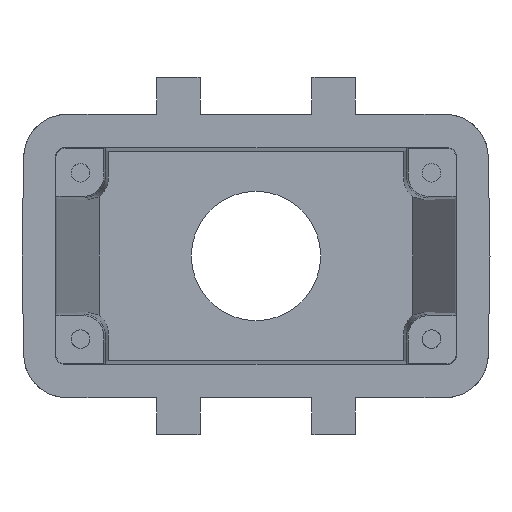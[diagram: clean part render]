
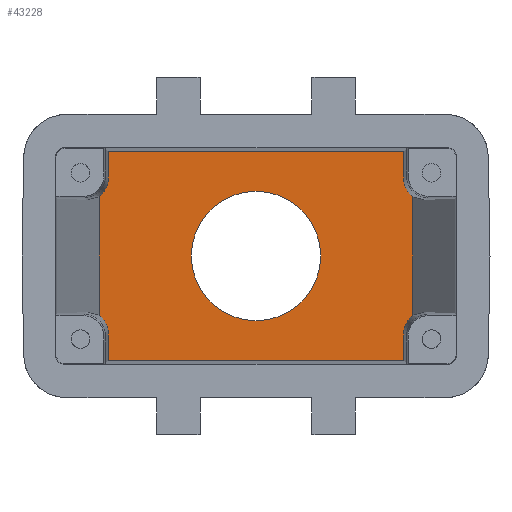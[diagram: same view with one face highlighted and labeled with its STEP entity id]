
A CAD part, front view. The second image highlights one B-rep face of the part: STEP entity #43228.
In plain terms, the highlighted planar face has unit normal (0, -1, 0).
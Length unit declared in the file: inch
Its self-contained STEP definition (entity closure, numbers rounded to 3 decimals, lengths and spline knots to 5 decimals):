
#225 = DIRECTION ( 'NONE',  ( 0., 0., -1. ) ) ;
#391 = CARTESIAN_POINT ( 'NONE',  ( -0.08852, 3.54726, -0.44691 ) ) ;
#595 = CARTESIAN_POINT ( 'NONE',  ( -1.9987, 3.54726, -0.40672 ) ) ;
#745 = VERTEX_POINT ( 'NONE', #14669 ) ;
#1044 = ORIENTED_EDGE ( 'NONE', *, *, #43412, .T. ) ;
#1197 = LINE ( 'NONE', #25603, #9439 ) ;
#1565 = ORIENTED_EDGE ( 'NONE', *, *, #30008, .F. ) ;
#1573 = EDGE_CURVE ( 'NONE', #7478, #10904, #25110, .T. ) ;
#3776 = ORIENTED_EDGE ( 'NONE', *, *, #13657, .F. ) ;
#4225 = VECTOR ( 'NONE', #13886, 39.37008 ) ;
#4409 = EDGE_CURVE ( 'NONE', #19410, #21725, #41220, .T. ) ;
#4616 = VERTEX_POINT ( 'NONE', #10768 ) ;
#5604 = VECTOR ( 'NONE', #39067, 39.37008 ) ;
#5860 = LINE ( 'NONE', #42047, #15224 ) ;
#6595 = DIRECTION ( 'NONE',  ( 0., 0., 1. ) ) ;
#7139 = VERTEX_POINT ( 'NONE', #27639 ) ;
#7478 = VERTEX_POINT ( 'NONE', #12365 ) ;
#7905 = FACE_OUTER_BOUND ( 'NONE', #9216, .T. ) ;
#8701 = CARTESIAN_POINT ( 'NONE',  ( -0.77742, 3.54726, 0. ) ) ;
#8891 = VERTEX_POINT ( 'NONE', #42168 ) ;
#9216 = EDGE_LOOP ( 'NONE', ( #11087, #14550, #43002, #30074, #3776, #45045, #33043, #21612, #1565, #12250, #1044, #10765 ) ) ;
#9220 = CARTESIAN_POINT ( 'NONE',  ( -1.9987, 3.54726, 0.40672 ) ) ;
#9439 = VECTOR ( 'NONE', #15129, 39.37008 ) ;
#10231 = CARTESIAN_POINT ( 'NONE',  ( -0.77742, 3.54726, -0.66922 ) ) ;
#10621 = LINE ( 'NONE', #23552, #21088 ) ;
#10702 =( BOUNDED_CURVE ( )  B_SPLINE_CURVE ( 3, ( #17916, #42510, #391, #24970 ),
 .UNSPECIFIED., .F., .T. ) 
 B_SPLINE_CURVE_WITH_KNOTS ( ( 4, 4 ),
 ( 6.12281, 7.06855 ),
 .UNSPECIFIED. ) 
 CURVE ( )  GEOMETRIC_REPRESENTATION_ITEM ( )  RATIONAL_B_SPLINE_CURVE ( ( 1., 0.927, 0.927, 1. ) ) 
 REPRESENTATION_ITEM ( '' )  );
#10765 = ORIENTED_EDGE ( 'NONE', *, *, #17861, .F. ) ;
#10768 = CARTESIAN_POINT ( 'NONE',  ( -0.08852, 3.54726, -0.66922 ) ) ;
#10835 = CARTESIAN_POINT ( 'NONE',  ( -1.97814, 3.54726, -0.49205 ) ) ;
#10904 = VERTEX_POINT ( 'NONE', #21601 ) ;
#11087 = ORIENTED_EDGE ( 'NONE', *, *, #31125, .F. ) ;
#11116 = EDGE_CURVE ( 'NONE', #10904, #7478, #44073, .T. ) ;
#11850 = AXIS2_PLACEMENT_3D ( 'NONE', #8701, #12202, #36816 ) ;
#12202 = DIRECTION ( 'NONE',  ( 0., 1., 0. ) ) ;
#12250 = ORIENTED_EDGE ( 'NONE', *, *, #32404, .F. ) ;
#12365 = CARTESIAN_POINT ( 'NONE',  ( -0.61994, 3.54726, 0. ) ) ;
#12443 = CARTESIAN_POINT ( 'NONE',  ( -2.0353, 3.54726, 0.38031 ) ) ;
#12450 = VECTOR ( 'NONE', #6595, 39.37008 ) ;
#12724 = CARTESIAN_POINT ( 'NONE',  ( -1.97814, 3.54726, 0.49205 ) ) ;
#13141 = VECTOR ( 'NONE', #26786, 39.37008 ) ;
#13497 = EDGE_LOOP ( 'NONE', ( #40848, #38201 ) ) ;
#13565 = LINE ( 'NONE', #23278, #31184 ) ;
#13657 = EDGE_CURVE ( 'NONE', #4616, #19410, #25131, .T. ) ;
#13886 = DIRECTION ( 'NONE',  ( -1., 0., 0. ) ) ;
#14464 = CARTESIAN_POINT ( 'NONE',  ( -0.08852, 3.54726, 0. ) ) ;
#14550 = ORIENTED_EDGE ( 'NONE', *, *, #32770, .F. ) ;
#14669 = CARTESIAN_POINT ( 'NONE',  ( -2.0353, 3.54726, 0.38031 ) ) ;
#15129 = DIRECTION ( 'NONE',  ( 0., 0., 1. ) ) ;
#15224 = VECTOR ( 'NONE', #225, 39.37008 ) ;
#15525 = VERTEX_POINT ( 'NONE', #36882 ) ;
#17190 = DIRECTION ( 'NONE',  ( 0., -1., 0. ) ) ;
#17861 = EDGE_CURVE ( 'NONE', #26606, #27516, #1197, .T. ) ;
#17916 = CARTESIAN_POINT ( 'NONE',  ( -0.03135, 3.54726, -0.38031 ) ) ;
#18115 = CARTESIAN_POINT ( 'NONE',  ( -1.97814, 3.54726, -0.44691 ) ) ;
#18174 =( BOUNDED_CURVE ( )  B_SPLINE_CURVE ( 3, ( #35646, #18115, #595, #25174 ),
 .UNSPECIFIED., .F., .F. ) 
 B_SPLINE_CURVE_WITH_KNOTS ( ( 4, 4 ),
 ( 2.35623, 3.30196 ),
 .UNSPECIFIED. ) 
 CURVE ( )  GEOMETRIC_REPRESENTATION_ITEM ( )  RATIONAL_B_SPLINE_CURVE ( ( 1., 0.927, 0.927, 1. ) ) 
 REPRESENTATION_ITEM ( '' )  );
#18437 = CARTESIAN_POINT ( 'NONE',  ( -1.97814, 3.54726, 0.49205 ) ) ;
#18698 = EDGE_CURVE ( 'NONE', #28816, #7139, #10702, .T. ) ;
#18916 = AXIS2_PLACEMENT_3D ( 'NONE', #38265, #17190, #41804 ) ;
#19003 = AXIS2_PLACEMENT_3D ( 'NONE', #40349, #19271, #43892 ) ;
#19271 = DIRECTION ( 'NONE',  ( 0., -1., 0. ) ) ;
#19410 = VERTEX_POINT ( 'NONE', #27476 ) ;
#19527 = CARTESIAN_POINT ( 'NONE',  ( -0.03135, 3.54726, 0.38031 ) ) ;
#19912 = DIRECTION ( 'NONE',  ( 0., 0., -1. ) ) ;
#21088 = VECTOR ( 'NONE', #44655, 39.37008 ) ;
#21601 = CARTESIAN_POINT ( 'NONE',  ( -1.44671, 3.54726, 0. ) ) ;
#21612 = ORIENTED_EDGE ( 'NONE', *, *, #32162, .F. ) ;
#21725 = VERTEX_POINT ( 'NONE', #10835 ) ;
#22117 = LINE ( 'NONE', #14464, #5604 ) ;
#22972 = VERTEX_POINT ( 'NONE', #41958 ) ;
#23278 = CARTESIAN_POINT ( 'NONE',  ( -0.03135, 3.54726, 0. ) ) ;
#23552 = CARTESIAN_POINT ( 'NONE',  ( -1.62217, 3.54726, 0.66922 ) ) ;
#24970 = CARTESIAN_POINT ( 'NONE',  ( -0.08852, 3.54726, -0.49205 ) ) ;
#25110 = CIRCLE ( 'NONE', #18916, 0.41339 ) ;
#25131 = LINE ( 'NONE', #10231, #4225 ) ;
#25174 = CARTESIAN_POINT ( 'NONE',  ( -2.0353, 3.54726, -0.38031 ) ) ;
#25603 = CARTESIAN_POINT ( 'NONE',  ( -1.97814, 3.54726, 0. ) ) ;
#26606 = VERTEX_POINT ( 'NONE', #18437 ) ;
#26786 = DIRECTION ( 'NONE',  ( 0., 0., 1. ) ) ;
#27476 = CARTESIAN_POINT ( 'NONE',  ( -1.97814, 3.54726, -0.66922 ) ) ;
#27516 = VERTEX_POINT ( 'NONE', #44291 ) ;
#27639 = CARTESIAN_POINT ( 'NONE',  ( -0.08852, 3.54726, -0.49205 ) ) ;
#27669 = CARTESIAN_POINT ( 'NONE',  ( -2.0353, 3.54726, 0. ) ) ;
#28816 = VERTEX_POINT ( 'NONE', #44783 ) ;
#29614 = EDGE_CURVE ( 'NONE', #21725, #15525, #18174, .T. ) ;
#29739 = PLANE ( 'NONE',  #11850 ) ;
#29787 =( BOUNDED_CURVE ( )  B_SPLINE_CURVE ( 3, ( #12443, #9220, #33814, #12724 ),
 .UNSPECIFIED., .F., .F. ) 
 B_SPLINE_CURVE_WITH_KNOTS ( ( 4, 4 ),
 ( 6.12281, 7.06855 ),
 .UNSPECIFIED. ) 
 CURVE ( )  GEOMETRIC_REPRESENTATION_ITEM ( )  RATIONAL_B_SPLINE_CURVE ( ( 1., 0.927, 0.927, 1. ) ) 
 REPRESENTATION_ITEM ( '' )  );
#30008 = EDGE_CURVE ( 'NONE', #35712, #8891, #39315, .T. ) ;
#30074 = ORIENTED_EDGE ( 'NONE', *, *, #4409, .F. ) ;
#31125 = EDGE_CURVE ( 'NONE', #745, #26606, #29787, .T. ) ;
#31184 = VECTOR ( 'NONE', #19912, 39.37008 ) ;
#32162 = EDGE_CURVE ( 'NONE', #8891, #28816, #13565, .T. ) ;
#32404 = EDGE_CURVE ( 'NONE', #22972, #35712, #5860, .T. ) ;
#32770 = EDGE_CURVE ( 'NONE', #15525, #745, #38290, .T. ) ;
#33043 = ORIENTED_EDGE ( 'NONE', *, *, #18698, .F. ) ;
#33496 = CARTESIAN_POINT ( 'NONE',  ( -0.08852, 3.54726, 0.44691 ) ) ;
#33814 = CARTESIAN_POINT ( 'NONE',  ( -1.97814, 3.54726, 0.44691 ) ) ;
#34173 = CARTESIAN_POINT ( 'NONE',  ( -0.08852, 3.54726, 0.49205 ) ) ;
#35646 = CARTESIAN_POINT ( 'NONE',  ( -1.97814, 3.54726, -0.49205 ) ) ;
#35712 = VERTEX_POINT ( 'NONE', #34173 ) ;
#35975 = FACE_BOUND ( 'NONE', #13497, .T. ) ;
#36816 = DIRECTION ( 'NONE',  ( 1., 0., 0. ) ) ;
#36882 = CARTESIAN_POINT ( 'NONE',  ( -2.0353, 3.54726, -0.38031 ) ) ;
#37044 = CARTESIAN_POINT ( 'NONE',  ( -0.08852, 3.54726, 0.49205 ) ) ;
#38201 = ORIENTED_EDGE ( 'NONE', *, *, #11116, .F. ) ;
#38265 = CARTESIAN_POINT ( 'NONE',  ( -1.03333, 3.54726, 0. ) ) ;
#38290 = LINE ( 'NONE', #27669, #12450 ) ;
#39067 = DIRECTION ( 'NONE',  ( 0., 0., -1. ) ) ;
#39315 =( BOUNDED_CURVE ( )  B_SPLINE_CURVE ( 3, ( #37044, #33496, #40585, #19527 ),
 .UNSPECIFIED., .F., .F. ) 
 B_SPLINE_CURVE_WITH_KNOTS ( ( 4, 4 ),
 ( 2.35623, 3.30196 ),
 .UNSPECIFIED. ) 
 CURVE ( )  GEOMETRIC_REPRESENTATION_ITEM ( )  RATIONAL_B_SPLINE_CURVE ( ( 1., 0.927, 0.927, 1. ) ) 
 REPRESENTATION_ITEM ( '' )  );
#40349 = CARTESIAN_POINT ( 'NONE',  ( -1.03333, 3.54726, 0. ) ) ;
#40585 = CARTESIAN_POINT ( 'NONE',  ( -0.06796, 3.54726, 0.40672 ) ) ;
#40848 = ORIENTED_EDGE ( 'NONE', *, *, #1573, .F. ) ;
#41220 = LINE ( 'NONE', #44342, #13141 ) ;
#41804 = DIRECTION ( 'NONE',  ( 1., 0., 0. ) ) ;
#41958 = CARTESIAN_POINT ( 'NONE',  ( -0.08852, 3.54726, 0.66922 ) ) ;
#42047 = CARTESIAN_POINT ( 'NONE',  ( -0.08852, 3.54726, 0. ) ) ;
#42168 = CARTESIAN_POINT ( 'NONE',  ( -0.03135, 3.54726, 0.38031 ) ) ;
#42510 = CARTESIAN_POINT ( 'NONE',  ( -0.06796, 3.54726, -0.40672 ) ) ;
#43002 = ORIENTED_EDGE ( 'NONE', *, *, #29614, .F. ) ;
#43228 = ADVANCED_FACE ( 'NONE', ( #7905, #35975 ), #29739, .F. ) ;
#43412 = EDGE_CURVE ( 'NONE', #22972, #27516, #10621, .T. ) ;
#43892 = DIRECTION ( 'NONE',  ( 1., 0., 0. ) ) ;
#44073 = CIRCLE ( 'NONE', #19003, 0.41339 ) ;
#44291 = CARTESIAN_POINT ( 'NONE',  ( -1.97814, 3.54726, 0.66922 ) ) ;
#44342 = CARTESIAN_POINT ( 'NONE',  ( -1.97814, 3.54726, 0. ) ) ;
#44655 = DIRECTION ( 'NONE',  ( -1., 0., 0. ) ) ;
#44783 = CARTESIAN_POINT ( 'NONE',  ( -0.03135, 3.54726, -0.38031 ) ) ;
#45045 = ORIENTED_EDGE ( 'NONE', *, *, #45365, .F. ) ;
#45365 = EDGE_CURVE ( 'NONE', #7139, #4616, #22117, .T. ) ;
